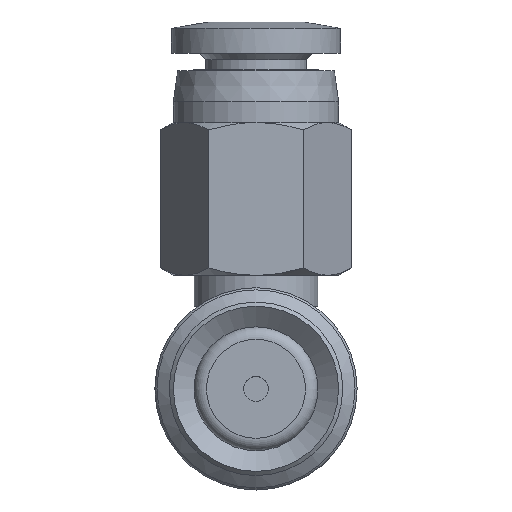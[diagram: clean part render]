
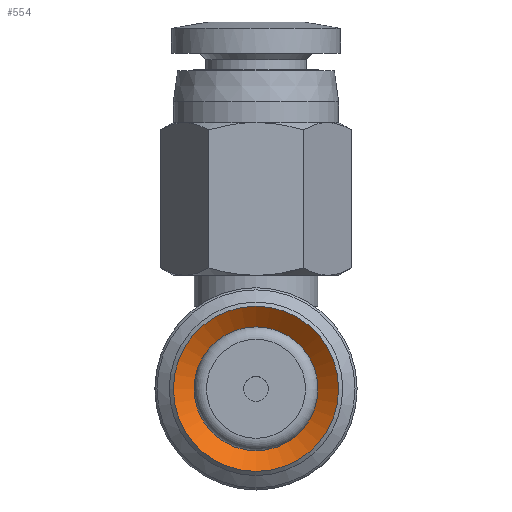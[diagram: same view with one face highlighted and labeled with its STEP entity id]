
A CAD part, front view. The second image highlights one B-rep face of the part: STEP entity #554.
In plain terms, the highlighted conical face has half-angle 52 degrees and reference radius 3 mm.
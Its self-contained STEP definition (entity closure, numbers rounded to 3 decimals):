
#554=ADVANCED_FACE('',(#852,#853),#854,.F.);
#852=FACE_BOUND('',#1237,.T.);
#853=FACE_OUTER_BOUND('',#1238,.T.);
#854=CONICAL_SURFACE('',#1239,3.0,0.908);
#1237=EDGE_LOOP('',(#2250));
#1238=EDGE_LOOP('',(#2251));
#1239=AXIS2_PLACEMENT_3D('',#2252,#2253,#2254);
#2250=ORIENTED_EDGE('',*,*,#2776,.F.);
#2251=ORIENTED_EDGE('',*,*,#2769,.T.);
#2252=CARTESIAN_POINT('',(0.0,7.741,0.));
#2253=DIRECTION('',(-0.0,-1.0,0.));
#2254=DIRECTION('',(0.0,0.,-1.0));
#2769=EDGE_CURVE('',#3158,#3158,#3159,.T.);
#2776=EDGE_CURVE('',#3172,#3172,#3173,.T.);
#3158=VERTEX_POINT('',#3992);
#3159=CIRCLE('',#3993,4.0);
#3172=VERTEX_POINT('',#4006);
#3173=CIRCLE('',#4007,3.0);
#3992=CARTESIAN_POINT('',(0.0,6.96,-4.0));
#3993=AXIS2_PLACEMENT_3D('',#4682,#4683,#4684);
#4006=CARTESIAN_POINT('',(0.0,7.741,-3.0));
#4007=AXIS2_PLACEMENT_3D('',#4703,#4704,#4705);
#4682=CARTESIAN_POINT('',(0.0,6.96,0.0));
#4683=DIRECTION('',(0.0,-1.0,0.));
#4684=DIRECTION('',(0.0,0.,-1.0));
#4703=CARTESIAN_POINT('',(0.0,7.741,0.));
#4704=DIRECTION('',(0.0,-1.0,0.));
#4705=DIRECTION('',(0.0,0.,-1.0));
